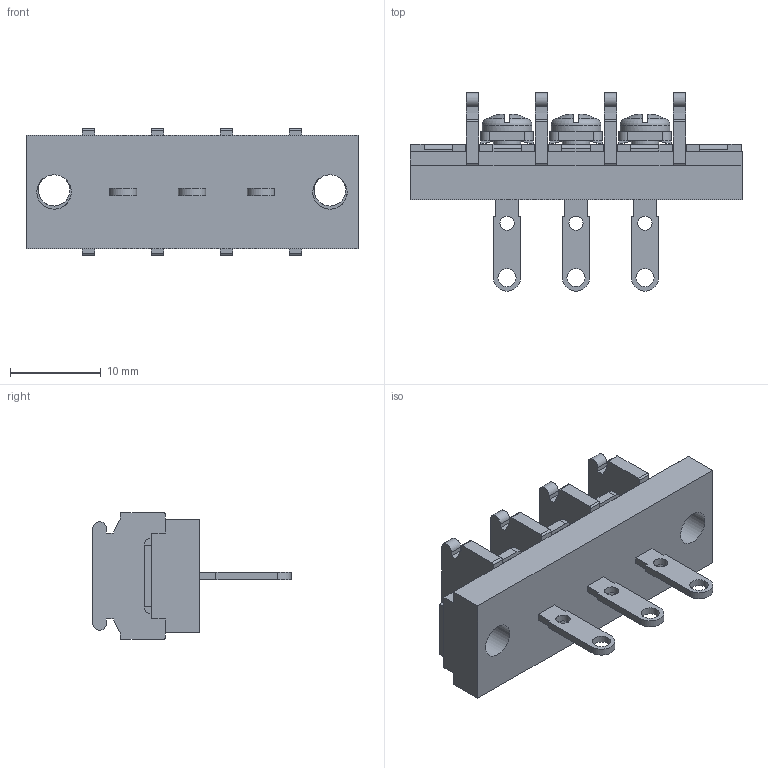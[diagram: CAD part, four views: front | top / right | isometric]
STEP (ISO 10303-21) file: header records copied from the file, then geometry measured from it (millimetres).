
FILE_DESCRIPTION(/* description */ ('Alibre Inc.'),/* implementation_level */ '2;1');
FILE_NAME(/* name */ 'export0',/* time_stamp */ '2015-10-26T16:35:16+09:00',/* author */ (''),/* organization */ (''),/* preprocessor_version */ 'ST-DEVELOPER v14',/* originating_system */ 'Alibre',/* authorisation */ '');
FILE_SCHEMA (('CONFIG_CONTROL_DESIGN'));
Length unit declared in the file: centimetre
Products named in the file (1): ID_1
Bounding box: 36.68 x 21.9 x 14 mm (x, y, z)
Volume: 3110.1 mm3; surface area: 3151.9 mm2
Topology: 1 solids, 17 shells, 806 faces, 2164 edges, 1426 vertices
Faces by surface type: plane 613, bspline 104, cylinder 65, cone 12, torus 6, sphere 6
Full cylindrical faces by diameter (mm): 1.57 x3, 2 x3, 3 x3, 3.5 x2, 3.8 x2, 5.5 x3
Entity records: 24001 total; most frequent: CARTESIAN_POINT 5378, ORIENTED_EDGE 4264, DIRECTION 2801, EDGE_CURVE 2132, VECTOR 1604, LINE 1604, VERTEX_POINT 1416, EDGE_LOOP 886
